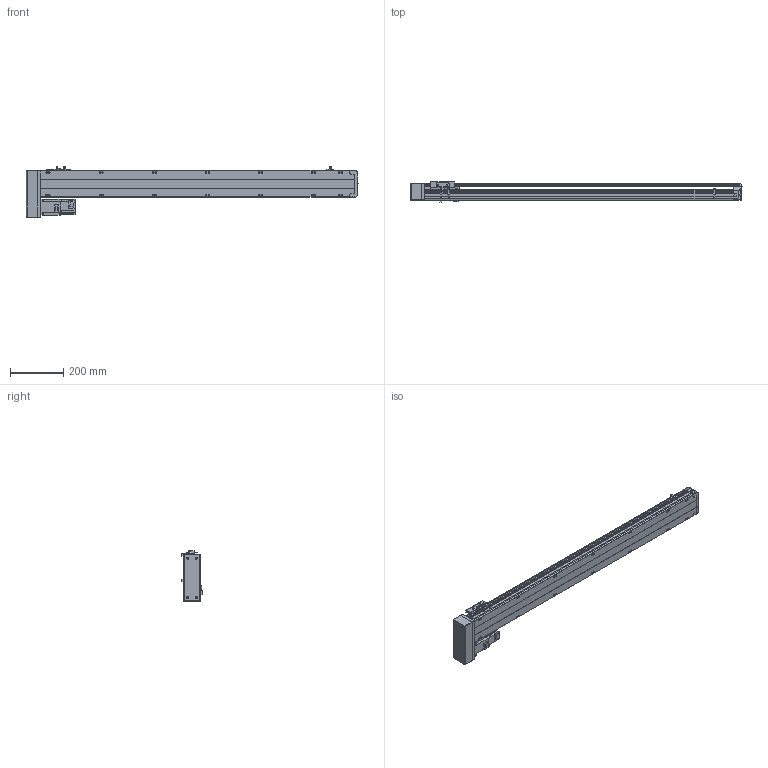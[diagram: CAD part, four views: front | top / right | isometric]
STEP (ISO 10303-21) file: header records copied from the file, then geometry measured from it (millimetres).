
FILE_DESCRIPTION( ( 'STEP AP214' ), '1' );
FILE_NAME( 'x:/temp/worker_27/temp/exporttempdir_6708_106_vmub3/format_0/PSS120-L10-S1000-BR-T40-C1-N(0).stp', '2022-06-06T00:31:07', ( 'License CC BY-ND 4.0' ), ( 'CADENAS' ), ' ', 'PARTsolutions', ' ' );
FILE_SCHEMA( ( 'AUTOMOTIVE_DESIGN { 1 0 10303 214 1 1 1 1 }' ) );
Length unit declared in the file: millimetre
Products named in the file (8): PSS120-L10-S1000-BR-T40-C1-N(0); _PSS120-S1000-BR-C1-N_body; _PSS120-N_Q; _PSS120-BR-C1-N_sl; _PSS120-N_sensor; _PSS120BR-N_h; _T40-p1; _PSS120-S1000-BR-N_S
Assembly tree (9 placements, depth 2):
  PSS120-L10-S1000-BR-T40-C1-N(0)
    _PSS120-S1000-BR-C1-N_body
    _PSS120-N_Q
    _PSS120-BR-C1-N_sl
    _PSS120-N_sensor  x3
    _PSS120BR-N_h
    _T40-p1
    _PSS120-S1000-BR-N_S
Bounding box: 1249.35 x 76.8 x 191.2 mm (x, y, z)
Volume: 4721804.7 mm3; surface area: 800062.1 mm2
Topology: 9 solids, 9 shells, 864 faces, 2309 edges, 1526 vertices
Faces by surface type: plane 601, cylinder 237, cone 22, sphere 4
Full cylindrical faces by diameter (mm): 2.8 x3, 4 x4, 4.134 x18, 4.4 x2, 4.5 x4, 4.6 x3, 5 x6, 5.5 x21, 7 x2, 7.4 x4, 8 x4, 8.5 x18, 14 x1, 28 x1, 32 x2, 50 x1
Entity records: 29665 total; most frequent: CARTESIAN_POINT 4599, DIRECTION 3877, ORIENTED_EDGE 3766, EDGE_CURVE 1883, LINE 1333, VECTOR 1333, VERTEX_POINT 1308, AXIS2_PLACEMENT_3D 1272
